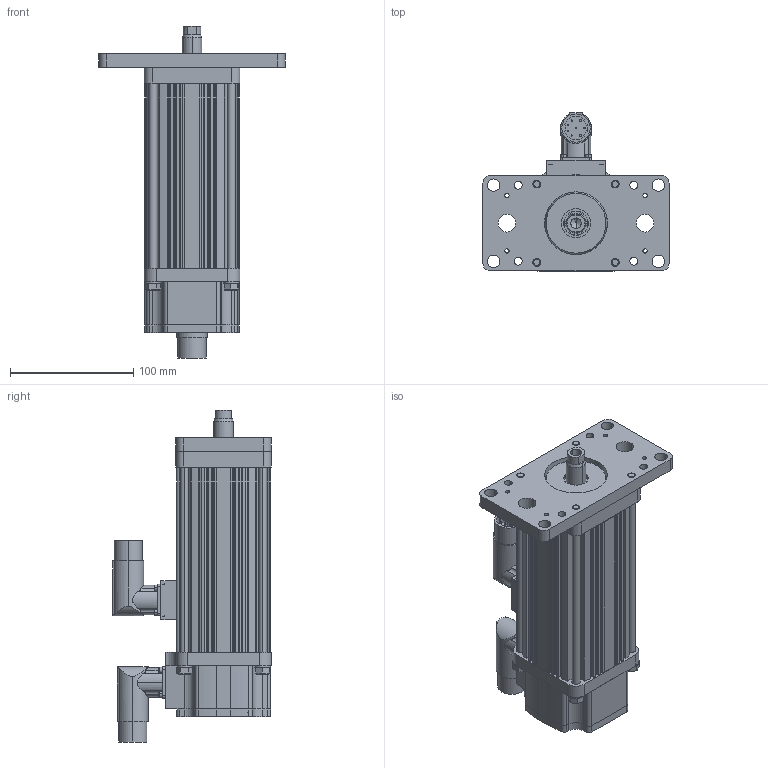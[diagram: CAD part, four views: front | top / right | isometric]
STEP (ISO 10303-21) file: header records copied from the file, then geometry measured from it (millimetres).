
FILE_DESCRIPTION (( 'STEP AP203' ), '1' );
FILE_NAME ('GSM30-3 inch Front Flange, Euro Conn, B Rod.step', '2008-06-14T07:37:22', ( 'SaharaKiran' ), ( 'I2T2' ), 'SwSTEP 2.0', 'SolidWorks 2008', '' );
FILE_SCHEMA (( 'CONFIG_CONTROL_DESIGN' ));
Length unit declared in the file: inch
Products named in the file (16): 25610; 10513; End cap_Front Flange, Euro; End Cap_27687-EURO; 20494; 26428; 12367; Tie Rod_10540-3"; 10647; 11247; 23017; 19819; 11248; GSM30-3 inch Front Flange, Euro Conn, B Rod; case_3"; MAIN ROD GSX30_B MAIN ROD -3"
Assembly tree (36 placements, depth 3):
  GSM30-3 inch Front Flange, Euro Conn, B Rod
    11247  x4
    11248  x4
    MAIN ROD GSX30_B MAIN ROD -3"
    25610
    10513  x2
    23017
    Tie Rod_10540-3"  x4
    10647
    case_3"
    12367  x4
    19819
    End cap_Front Flange, Euro
      12367  x8
      End Cap_27687-EURO
      26428
      20494
Bounding box: 150.88 x 128.48 x 269.11 mm (x, y, z)
Volume: 756545.9 mm3; surface area: 268493 mm2
Topology: 35 solids, 35 shells, 1052 faces, 2555 edges, 1618 vertices
Faces by surface type: cylinder 509, plane 346, cone 169, torus 28
Entity records: 25862 total; most frequent: CARTESIAN_POINT 4724, DIRECTION 4284, ORIENTED_EDGE 3702, EDGE_CURVE 1851, AXIS2_PLACEMENT_3D 1707, VERTEX_POINT 1206, EDGE_LOOP 925, CIRCLE 923
